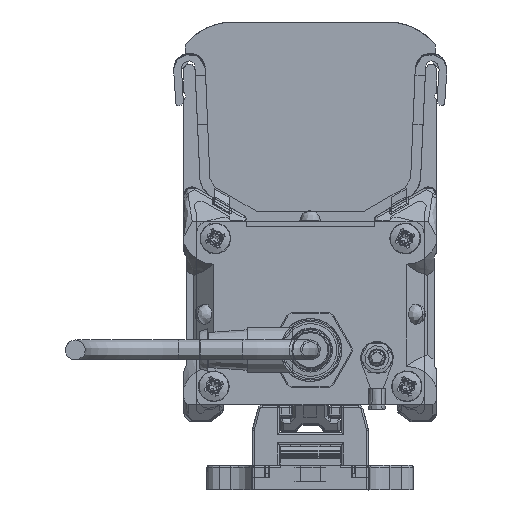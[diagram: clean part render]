
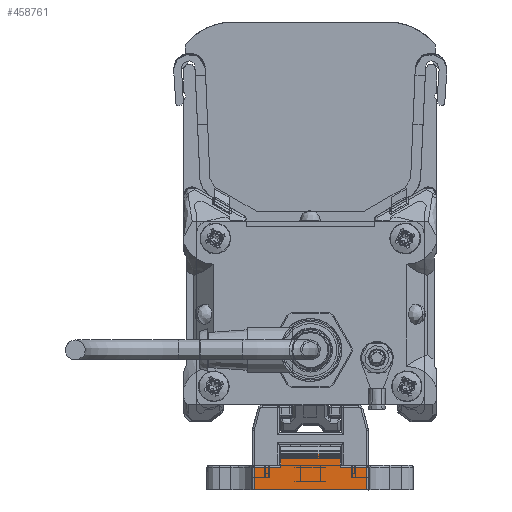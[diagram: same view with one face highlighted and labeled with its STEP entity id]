
A CAD part, left-side view. The second image highlights one B-rep face of the part: STEP entity #458761.
In plain terms, the highlighted planar face has unit normal (-1, 0, 0) as drawn and (1, 0, 0) by its records, which use the part's own axes.
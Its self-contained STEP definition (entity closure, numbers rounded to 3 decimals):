
#172769=ORIENTED_EDGE('',*,*,#244597,.F.);
#172770=ORIENTED_EDGE('',*,*,#244598,.T.);
#172771=ORIENTED_EDGE('',*,*,#244599,.F.);
#172772=ORIENTED_EDGE('',*,*,#244595,.T.);
#172773=ORIENTED_EDGE('',*,*,#244569,.F.);
#172774=ORIENTED_EDGE('',*,*,#244600,.T.);
#172775=ORIENTED_EDGE('',*,*,#244601,.F.);
#172776=ORIENTED_EDGE('',*,*,#244602,.T.);
#210143=VECTOR('',#282935,1.);
#210161=VECTOR('',#282969,1.);
#210162=VECTOR('',#282974,1.);
#210163=VECTOR('',#282975,1.);
#210164=VECTOR('',#282976,1.);
#210165=VECTOR('',#282977,1.);
#210166=VECTOR('',#282978,1.);
#210167=VECTOR('',#282979,1.);
#221070=LINE('',#324087,#210143);
#221088=LINE('',#324178,#210161);
#221089=LINE('',#324183,#210162);
#221090=LINE('',#324185,#210163);
#221091=LINE('',#324186,#210164);
#221092=LINE('',#324188,#210165);
#221093=LINE('',#324190,#210166);
#221094=LINE('',#324191,#210167);
#232126=VERTEX_POINT('',#324084);
#232127=VERTEX_POINT('',#324086);
#232150=VERTEX_POINT('',#324177);
#232151=VERTEX_POINT('',#324181);
#232152=VERTEX_POINT('',#324182);
#232153=VERTEX_POINT('',#324184);
#232154=VERTEX_POINT('',#324187);
#232155=VERTEX_POINT('',#324189);
#244569=EDGE_CURVE('',#232126,#232127,#221070,.T.);
#244595=EDGE_CURVE('',#232150,#232127,#221088,.T.);
#244597=EDGE_CURVE('',#232151,#232152,#221089,.T.);
#244598=EDGE_CURVE('',#232151,#232153,#221090,.T.);
#244599=EDGE_CURVE('',#232150,#232153,#221091,.T.);
#244600=EDGE_CURVE('',#232126,#232154,#221092,.T.);
#244601=EDGE_CURVE('',#232155,#232154,#221093,.T.);
#244602=EDGE_CURVE('',#232155,#232152,#221094,.T.);
#263509=EDGE_LOOP('',(#172769,#172770,#172771,#172772,#172773,#172774,#172775,
#172776));
#272387=FACE_BOUND('',#263509,.T.);
#282935=DIRECTION('',(0.,-26.996,0.));
#282969=DIRECTION('',(0.,0.,-5.5));
#282972=DIRECTION('',(1.,0.,0.));
#282973=DIRECTION('',(0.,-1.,0.));
#282974=DIRECTION('',(0.,14.4,0.));
#282975=DIRECTION('',(0.,0.,-3.1));
#282976=DIRECTION('',(0.,6.298,0.));
#282977=DIRECTION('',(0.,0.,5.5));
#282978=DIRECTION('',(0.,6.298,0.));
#282979=DIRECTION('',(0.,0.,3.1));
#324084=CARTESIAN_POINT('',(96.175,75.88,-3.));
#324086=CARTESIAN_POINT('',(96.175,48.884,-3.));
#324087=CARTESIAN_POINT('',(96.175,75.88,-3.));
#324177=CARTESIAN_POINT('',(96.175,48.884,2.5));
#324178=CARTESIAN_POINT('',(96.175,48.884,2.5));
#324180=CARTESIAN_POINT('',(96.175,55.182,5.6));
#324181=CARTESIAN_POINT('',(96.175,55.182,5.6));
#324182=CARTESIAN_POINT('',(96.175,69.582,5.6));
#324183=CARTESIAN_POINT('',(96.175,55.182,5.6));
#324184=CARTESIAN_POINT('',(96.175,55.182,2.5));
#324185=CARTESIAN_POINT('',(96.175,55.182,5.6));
#324186=CARTESIAN_POINT('',(96.175,48.884,2.5));
#324187=CARTESIAN_POINT('',(96.175,75.88,2.5));
#324188=CARTESIAN_POINT('',(96.175,75.88,-3.));
#324189=CARTESIAN_POINT('',(96.175,69.582,2.5));
#324190=CARTESIAN_POINT('',(96.175,69.582,2.5));
#324191=CARTESIAN_POINT('',(96.175,69.582,2.5));
#441376=AXIS2_PLACEMENT_3D('',#324180,#282972,#282973);
#455280=PLANE('',#441376);
#458761=ADVANCED_FACE('',(#272387),#455280,.T.);
